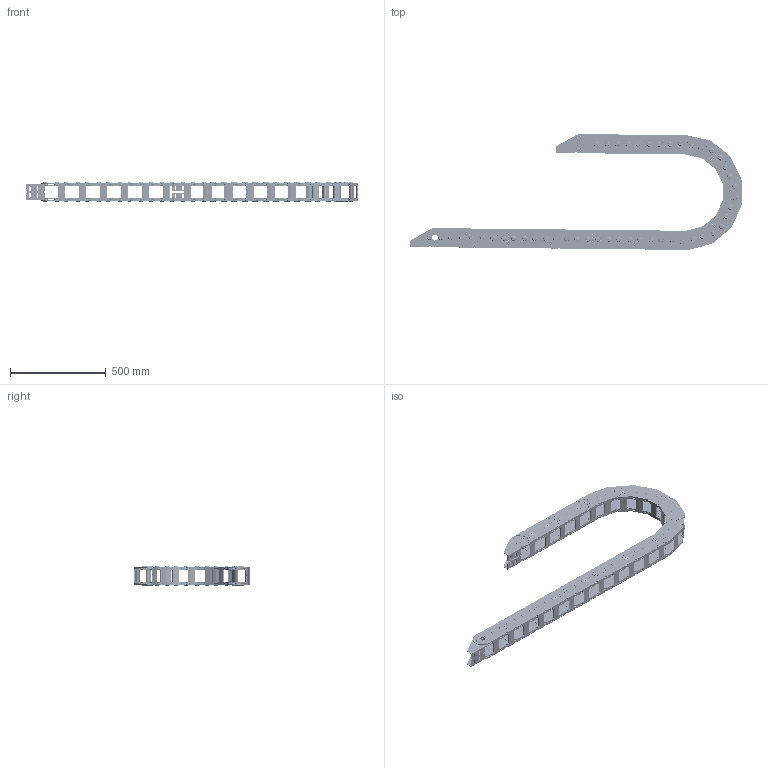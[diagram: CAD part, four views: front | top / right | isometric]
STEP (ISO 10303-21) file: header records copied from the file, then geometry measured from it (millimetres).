
FILE_DESCRIPTION((''),'2;1');
FILE_NAME('80GD-75-R250_ASM','2022-07-31T15:32:06',('admin'),(''),'CREO PARAMETRIC BY PTC INC, 2021164','CREO PARAMETRIC BY PTC INC, 2021164','');
FILE_SCHEMA(('CONFIG_CONTROL_DESIGN','GEOMETRIC_VALIDATION_PROPERTIES_MIM'));
Length unit declared in the file: millimetre
Products named in the file (5): 80-A; 80-B; 80-LTT; 80-LTT-2; 80GD-75-R250_ASM
Assembly tree (26 placements, depth 2):
  80GD-75-R250_ASM
    80-A  x12
    80-B  x12
    80-LTT
    80-LTT-2
Bounding box: 1736.09 x 605.49 x 100.1 mm (x, y, z)
Volume: 10675495.4 mm3; surface area: 3371340.5 mm2
Topology: 100 solids, 100 shells, 4240 faces, 11486 edges, 7786 vertices
Faces by surface type: cylinder 1876, plane 1692, torus 480, cone 192
Entity records: 21429 total; most frequent: DIRECTION 3090, CARTESIAN_POINT 2854, ORIENTED_EDGE 2732, EDGE_CURVE 1366, AXIS2_PLACEMENT_3D 1193, PRESENTATION_STYLE_ASSIGNMENT 1114, STYLED_ITEM 1114, VERTEX_POINT 922
